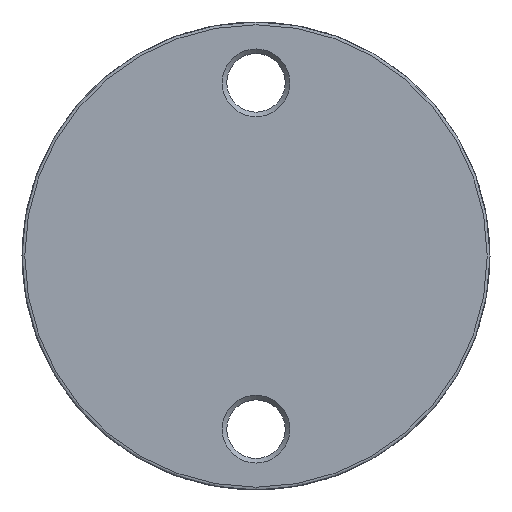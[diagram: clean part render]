
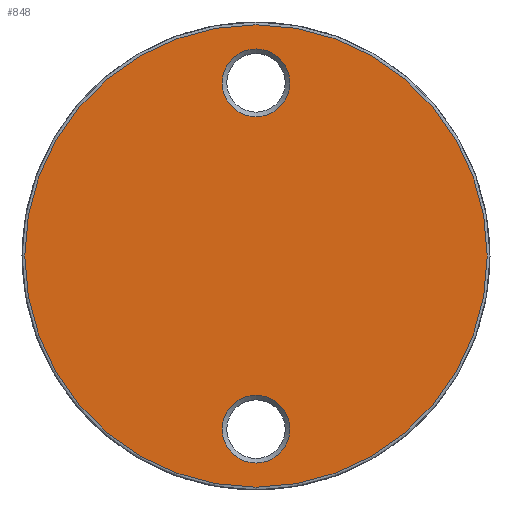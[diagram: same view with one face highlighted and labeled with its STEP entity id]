
A CAD part, left-side view. The second image highlights one B-rep face of the part: STEP entity #848.
In plain terms, the highlighted planar face has unit normal (-1, 0, 0).
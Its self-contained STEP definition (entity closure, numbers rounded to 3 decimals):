
#55=CARTESIAN_POINT('',(-525.136,-488.109,49.4));
#56=VERTEX_POINT('',#55);
#64=CARTESIAN_POINT('',(-525.136,-488.109,-49.4));
#65=VERTEX_POINT('',#64);
#66=CARTESIAN_POINT('',(-525.136,-488.109,0.0));
#67=DIRECTION('',(-1.0,0.0,0.0));
#68=DIRECTION('',(0.0,0.0,1.0));
#69=AXIS2_PLACEMENT_3D('',#66,#67,#68);
#70=CIRCLE('',#69,49.4);
#71=EDGE_CURVE('',#65,#56,#70,.T.);
#73=CARTESIAN_POINT('',(-525.136,-488.109,0.0));
#74=DIRECTION('',(-1.0,0.0,0.0));
#75=DIRECTION('',(0.0,0.0,1.0));
#76=AXIS2_PLACEMENT_3D('',#73,#74,#75);
#77=CIRCLE('',#76,49.4);
#78=EDGE_CURVE('',#56,#65,#77,.T.);
#799=CARTESIAN_POINT('',(-525.136,-586.909,98.8));
#800=DIRECTION('',(-1.0,0.0,0.0));
#801=DIRECTION('',(0.0,1.0,0.0));
#802=AXIS2_PLACEMENT_3D('',#799,#800,#801);
#803=PLANE('',#802);
#804=ORIENTED_EDGE('',*,*,#78,.T.);
#805=ORIENTED_EDGE('',*,*,#71,.T.);
#806=EDGE_LOOP('',(#804,#805));
#807=FACE_OUTER_BOUND('',#806,.T.);
#808=CARTESIAN_POINT('',(-525.136,-480.859,37.));
#809=VERTEX_POINT('',#808);
#810=CARTESIAN_POINT('',(-525.136,-495.359,37.));
#811=VERTEX_POINT('',#810);
#812=CARTESIAN_POINT('',(-525.136,-488.109,37.));
#813=DIRECTION('',(1.0,0.0,0.0));
#814=DIRECTION('',(0.0,1.0,0.0));
#815=AXIS2_PLACEMENT_3D('',#812,#813,#814);
#816=CIRCLE('',#815,7.25);
#817=EDGE_CURVE('',#809,#811,#816,.T.);
#818=ORIENTED_EDGE('',*,*,#817,.T.);
#819=CARTESIAN_POINT('',(-525.136,-488.109,37.));
#820=DIRECTION('',(1.0,0.0,0.0));
#821=DIRECTION('',(0.0,1.0,0.0));
#822=AXIS2_PLACEMENT_3D('',#819,#820,#821);
#823=CIRCLE('',#822,7.25);
#824=EDGE_CURVE('',#811,#809,#823,.T.);
#825=ORIENTED_EDGE('',*,*,#824,.T.);
#826=EDGE_LOOP('',(#818,#825));
#827=FACE_BOUND('',#826,.T.);
#828=CARTESIAN_POINT('',(-525.136,-480.859,-37.0));
#829=VERTEX_POINT('',#828);
#830=CARTESIAN_POINT('',(-525.136,-495.359,-37.0));
#831=VERTEX_POINT('',#830);
#832=CARTESIAN_POINT('',(-525.136,-488.109,-37.0));
#833=DIRECTION('',(1.0,0.0,0.0));
#834=DIRECTION('',(0.0,1.0,0.0));
#835=AXIS2_PLACEMENT_3D('',#832,#833,#834);
#836=CIRCLE('',#835,7.25);
#837=EDGE_CURVE('',#829,#831,#836,.T.);
#838=ORIENTED_EDGE('',*,*,#837,.T.);
#839=CARTESIAN_POINT('',(-525.136,-488.109,-37.0));
#840=DIRECTION('',(1.0,0.0,0.0));
#841=DIRECTION('',(0.0,1.0,0.0));
#842=AXIS2_PLACEMENT_3D('',#839,#840,#841);
#843=CIRCLE('',#842,7.25);
#844=EDGE_CURVE('',#831,#829,#843,.T.);
#845=ORIENTED_EDGE('',*,*,#844,.T.);
#846=EDGE_LOOP('',(#838,#845));
#847=FACE_BOUND('',#846,.T.);
#848=ADVANCED_FACE('',(#807,#827,#847),#803,.T.);
